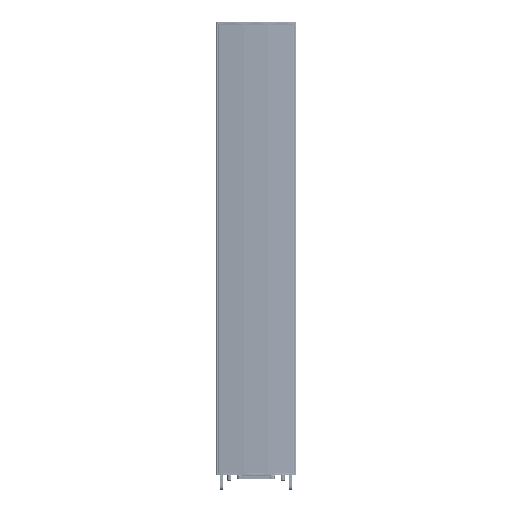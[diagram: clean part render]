
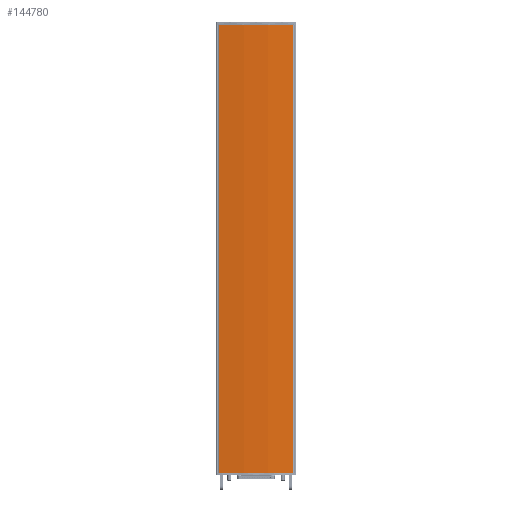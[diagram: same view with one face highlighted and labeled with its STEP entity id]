
A CAD part, top view. The second image highlights one B-rep face of the part: STEP entity #144780.
In plain terms, the highlighted cylindrical face has radius 449 mm (diameter 898 mm), a partial arc.
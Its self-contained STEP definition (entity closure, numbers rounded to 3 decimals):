
#67256 = AXIS2_PLACEMENT_3D ( 'NONE', #118052, #118121, #118055 ) ;
#67370 = AXIS2_PLACEMENT_3D ( 'NONE', #118050, #118118, #118073 ) ;
#89368 = EDGE_CURVE ( 'NONE', #139566, #139645, #119202, .T. ) ;
#89386 = EDGE_CURVE ( 'NONE', #139540, #139633, #119436, .T. ) ;
#89406 = EDGE_CURVE ( 'NONE', #139633, #139645, #119449, .T. ) ;
#89413 = EDGE_CURVE ( 'NONE', #139540, #139566, #119551, .T. ) ;
#117887 = CARTESIAN_POINT ( 'NONE',  ( -55.937, 0., 1.047 ) ) ;
#117954 = DIRECTION ( 'NONE',  ( 0., 1., 0. ) ) ;
#117968 = CARTESIAN_POINT ( 'NONE',  ( 55.937, 0., 1.047 ) ) ;
#117982 = DIRECTION ( 'NONE',  ( 0., 1., 0. ) ) ;
#118050 = CARTESIAN_POINT ( 'NONE',  ( 0., 676., -444.455 ) ) ;
#118052 = CARTESIAN_POINT ( 'NONE',  ( 0., 0., -444.455 ) ) ;
#118055 = DIRECTION ( 'NONE',  ( 0., 0., -1. ) ) ;
#118073 = DIRECTION ( 'NONE',  ( 0., 0., -1. ) ) ;
#118118 = DIRECTION ( 'NONE',  ( 0., -1., 0. ) ) ;
#118121 = DIRECTION ( 'NONE',  ( 0., -1., 0. ) ) ;
#119202 = LINE ( 'NONE', #117887, #119219 ) ;
#119219 = VECTOR ( 'NONE', #117954, 1000. ) ;
#119436 = LINE ( 'NONE', #117968, #119478 ) ;
#119449 = CIRCLE ( 'NONE', #67370, 449. ) ;
#119478 = VECTOR ( 'NONE', #117982, 1000. ) ;
#119551 = CIRCLE ( 'NONE', #67256, 449. ) ;
#139540 = VERTEX_POINT ( 'NONE', #309338 ) ;
#139566 = VERTEX_POINT ( 'NONE', #309262 ) ;
#139633 = VERTEX_POINT ( 'NONE', #309320 ) ;
#139645 = VERTEX_POINT ( 'NONE', #309314 ) ;
#144780 = ADVANCED_FACE ( 'NONE', ( #307909 ), #307936, .T. ) ;
#147947 = CARTESIAN_POINT ( 'NONE',  ( 0., 0., -444.455 ) ) ;
#147975 = DIRECTION ( 'NONE',  ( 0., 0., -1. ) ) ;
#148059 = DIRECTION ( 'NONE',  ( 0., -1., 0. ) ) ;
#152992 = AXIS2_PLACEMENT_3D ( 'NONE', #147947, #148059, #147975 ) ;
#158552 = ORIENTED_EDGE ( 'NONE', *, *, #89368, .F. ) ;
#158776 = ORIENTED_EDGE ( 'NONE', *, *, #89406, .T. ) ;
#158812 = ORIENTED_EDGE ( 'NONE', *, *, #89413, .F. ) ;
#158821 = ORIENTED_EDGE ( 'NONE', *, *, #89386, .T. ) ;
#190622 = EDGE_LOOP ( 'NONE', ( #158552, #158812, #158821, #158776 ) ) ;
#307909 = FACE_OUTER_BOUND ( 'NONE', #190622, .T. ) ;
#307936 = CYLINDRICAL_SURFACE ( 'NONE', #152992, 449. ) ;
#309262 = CARTESIAN_POINT ( 'NONE',  ( -55.937, 0., 1.047 ) ) ;
#309314 = CARTESIAN_POINT ( 'NONE',  ( -55.937, 676., 1.047 ) ) ;
#309320 = CARTESIAN_POINT ( 'NONE',  ( 55.937, 676., 1.047 ) ) ;
#309338 = CARTESIAN_POINT ( 'NONE',  ( 55.937, 0., 1.047 ) ) ;
